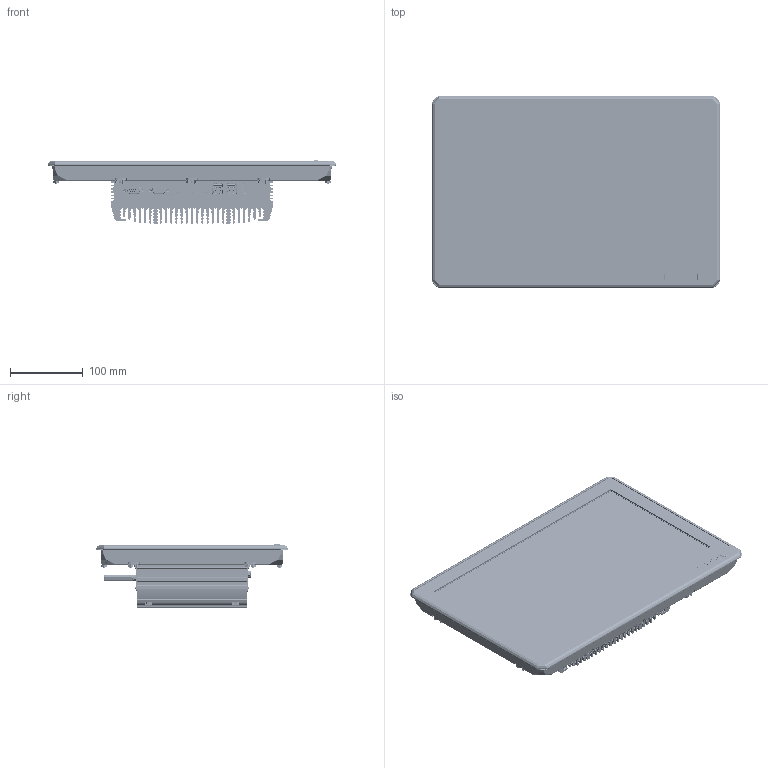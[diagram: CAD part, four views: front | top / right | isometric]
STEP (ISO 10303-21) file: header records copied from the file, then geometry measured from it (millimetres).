
FILE_DESCRIPTION (( 'STEP AP214' ), '1' );
FILE_NAME ('IDD22156.STEP', '2024-04-25T07:11:38', ( '' ), ( '' ), 'SwSTEP 2.0', 'SolidWorks 2018', '' );
FILE_SCHEMA (( 'AUTOMOTIVE_DESIGN' ));
Length unit declared in the file: millimetre
Products named in the file (1): IDD22156
Bounding box: 395.98 x 262.98 x 86.5 mm (x, y, z)
Topology: 0 solids, 923 shells, 14793 faces, 42140 edges, 28460 vertices
Faces by surface type: plane 7587, cylinder 5021, bspline 1372, torus 480, cone 228, sphere 105
Entity records: 796833 total; most frequent: CARTESIAN_POINT 267198, ORIENTED_EDGE 79911, DIRECTION 67167, EDGE_CURVE 41915, VERTEX_POINT 28461, LINE 23983, VECTOR 23983, AXIS2_PLACEMENT_3D 21592
